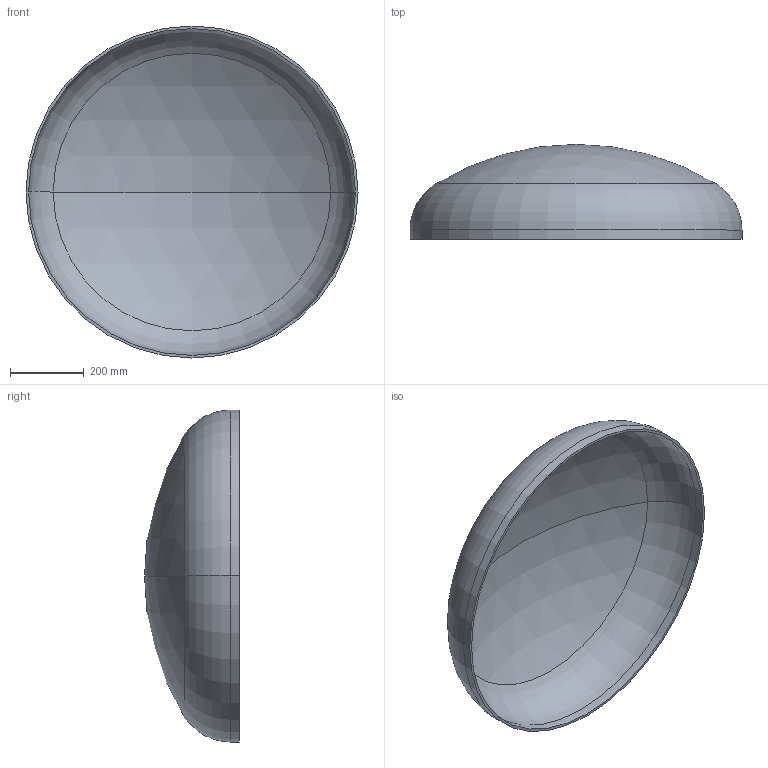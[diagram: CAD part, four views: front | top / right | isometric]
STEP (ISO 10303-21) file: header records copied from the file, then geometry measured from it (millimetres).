
FILE_DESCRIPTION (( 'STEP AP203' ), '1' );
FILE_NAME ('DIN 28013 Korbbogenform_-_Boden DIN 28013 - 900 x 25 - I - s=7.step', '2016-07-01T08:25:02', ( '' ), ( '' ), 'SwSTEP 2.0', 'SolidWorks 2013', '' );
FILE_SCHEMA (( 'CONFIG_CONTROL_DESIGN' ));
Length unit declared in the file: millimetre
Products named in the file (1): DIN 28013 Korbbogenform_-_Boden DIN 28013 - 900 x 25 - I - s=7
Bounding box: 900 x 257.44 x 900 mm (x, y, z)
Volume: 6607578.6 mm3; surface area: 1907619.6 mm2
Topology: 1 solids, 1 shells, 13 faces, 24 edges, 14 vertices
Faces by surface type: torus 4, cylinder 4, sphere 4, plane 1
Entity records: 407 total; most frequent: DIRECTION 72, CARTESIAN_POINT 52, ORIENTED_EDGE 48, AXIS2_PLACEMENT_3D 34, EDGE_CURVE 24, CIRCLE 20, VERTEX_POINT 14, EDGE_LOOP 14
